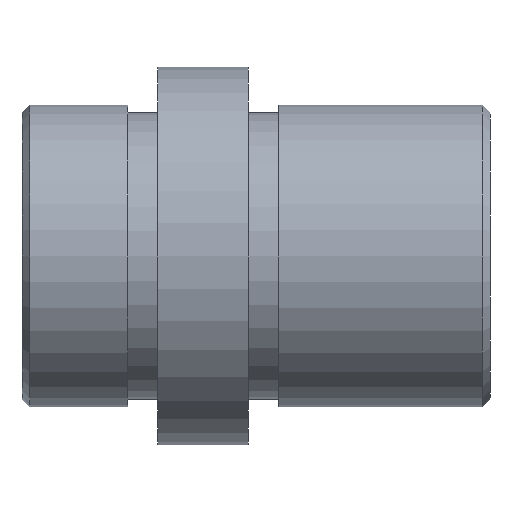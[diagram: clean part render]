
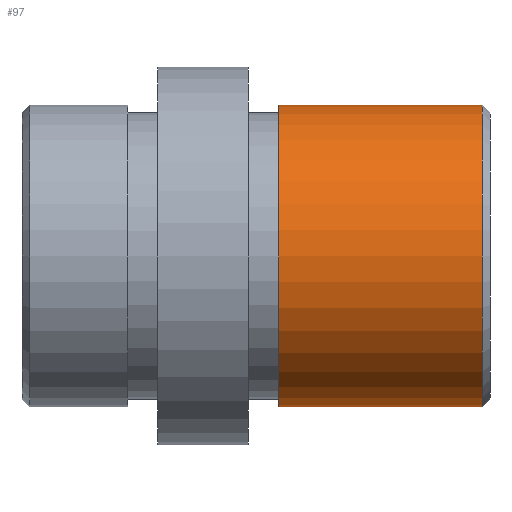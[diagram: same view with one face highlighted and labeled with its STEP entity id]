
A CAD part, front view. The second image highlights one B-rep face of the part: STEP entity #97.
In plain terms, the highlighted face is a revolution surface.
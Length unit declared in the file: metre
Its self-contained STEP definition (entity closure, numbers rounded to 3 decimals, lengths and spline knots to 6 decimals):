
#97 = ADVANCED_FACE( '', ( #149 ), #150, .F. );
#149 = FACE_OUTER_BOUND( '', #235, .T. );
#150 = SURFACE_OF_REVOLUTION( '', #236, #237 );
#235 = EDGE_LOOP( '', ( #403, #404, #405, #406 ) );
#236 = B_SPLINE_CURVE_WITH_KNOTS( '', 1, ( #407, #408 ), .UNSPECIFIED., .F., .F., ( 2, 2 ), ( -10000., 10000. ), .UNSPECIFIED. );
#237 = AXIS1_PLACEMENT( '', #409, #410 );
#403 = ORIENTED_EDGE( '', *, *, #482, .T. );
#404 = ORIENTED_EDGE( '', *, *, #485, .T. );
#405 = ORIENTED_EDGE( '', *, *, #489, .F. );
#406 = ORIENTED_EDGE( '', *, *, #483, .T. );
#407 = CARTESIAN_POINT( '', ( 10000.0305, 0., 0.01 ) );
#408 = CARTESIAN_POINT( '', ( -9999.9695, 0., 0.01 ) );
#409 = CARTESIAN_POINT( '', ( 0., 0., 0. ) );
#410 = DIRECTION( '', ( 1., 0., 0. ) );
#482 = EDGE_CURVE( '', #552, #554, #560, .T. );
#483 = EDGE_CURVE( '', #561, #552, #562, .F. );
#485 = EDGE_CURVE( '', #554, #563, #565, .T. );
#489 = EDGE_CURVE( '', #561, #563, #571, .T. );
#552 = VERTEX_POINT( '', #646 );
#554 = VERTEX_POINT( '', #649 );
#560 = CIRCLE( '', #658, 0.01 );
#561 = VERTEX_POINT( '', #659 );
#562 = LINE( '', #660, #661 );
#563 = VERTEX_POINT( '', #662 );
#565 = LINE( '', #664, #665 );
#571 = CIRCLE( '', #673, 0.01 );
#646 = CARTESIAN_POINT( '', ( 0.0305, 0., -0.01 ) );
#649 = CARTESIAN_POINT( '', ( 0.0305, 0., 0.01 ) );
#658 = AXIS2_PLACEMENT_3D( '', #772, #773, #774 );
#659 = CARTESIAN_POINT( '', ( 0.017, 0., -0.01 ) );
#660 = CARTESIAN_POINT( '', ( 0.0305, 0., -0.01 ) );
#661 = VECTOR( '', #775, 1. );
#662 = CARTESIAN_POINT( '', ( 0.017, 0., 0.01 ) );
#664 = CARTESIAN_POINT( '', ( 0.0305, 0., 0.01 ) );
#665 = VECTOR( '', #779, 1. );
#673 = AXIS2_PLACEMENT_3D( '', #785, #786, #787 );
#772 = CARTESIAN_POINT( '', ( 0.0305, 0., 0. ) );
#773 = DIRECTION( '', ( -1., 0., 0. ) );
#774 = DIRECTION( '', ( 0., 0., 1. ) );
#775 = DIRECTION( '', ( -1., 0., 0. ) );
#779 = DIRECTION( '', ( -1., 0., 0. ) );
#785 = CARTESIAN_POINT( '', ( 0.017, 0., 0. ) );
#786 = DIRECTION( '', ( -1., 0., 0. ) );
#787 = DIRECTION( '', ( 0., 0., 1. ) );
